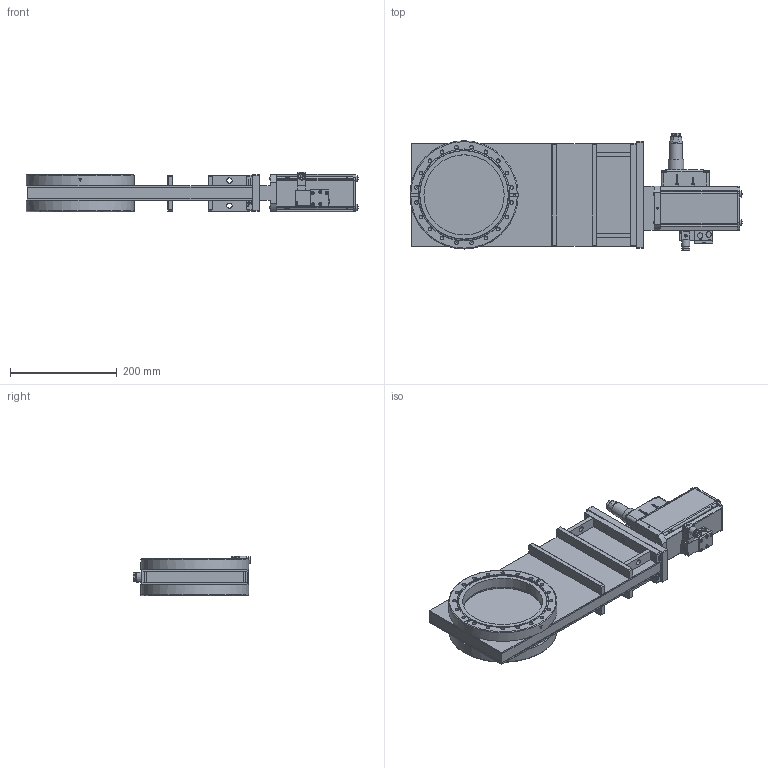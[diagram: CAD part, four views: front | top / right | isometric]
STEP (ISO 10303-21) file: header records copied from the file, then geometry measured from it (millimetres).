
FILE_DESCRIPTION(/* description */ (''),/* implementation_level */ '2;1');
FILE_NAME(/* name */ '1049421793_203.stp',/* time_stamp */ '2016-09-16T09:02:49+02:00',/* author */ (''),/* organization */ (''),/* preprocessor_version */ 'ST-DEVELOPER v15',/* originating_system */ 'SIEMENS PLM Software NX 9.0',/* authorisation */ '');
FILE_SCHEMA (('AP203_CONFIGURATION_CONTROLLED_3D_DESIGN_OF_MECHANICAL_PARTS_AND_ASSEMBLIES_MIM_LF { 1 0 10303 403 2 1 2}'));
Products named in the file (57): 500156; 800510; 387037; 800510_25066ID; 467882; 437235; 804858_25100ID; 804850_24339ID; 804857_25108ID; 804857_25111ID; 804844_25096ID; 804853_25110ID; 804858_25106ID; 804844_25109ID; 804857_25105ID; 804858_25101ID; 804853_24341ID; 804845_25107ID; 804845_25104ID; 804857_25098ID; 804858_25102ID; 70986-01.1; N-6240-008.1; N-6195-007.2; 71055-01.1; n-6011-049.1; 70973-01.1; N-7557-016_1.1; N-7557-018.1; N-7557-016_2.1; N-6024-524.1; N-5018-005.1; n-6099-492.1; 20846-01.1; 20846-01.1_24343ID; 70987-01.1; n-6024-548.1; 70988-01.1; n-8504-002; N-6024-571.1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
Assembly tree (90 placements, depth 5):
  511598
    93160-01.1
    72872-01.1
    69129.1
    94236-r1.3
      73004-01.1  x4
      94223-01.1
      85948-01.1
      N-6024-571.1  x4
    81045-r1.2_MODEL
      n-8504-002
      387035_MODEL
        70973-01.1
        n-6011-049.1  x2
        387036_MODELNX-ARRAGMNTMikroschalter neue Höhe
          800510_25066ID
          387037
          800510
          500156
      70988-01.1  x2
      n-6024-548.1  x4
      70987-01.1
      73638-r1.1
        71055-01.1  x4
        N-6195-007.2  x4
        N-6240-008.1  x2
        70986-01.1
    218198.1  x10
    22940-r1.1_MODEL
      804898_MODEL
        804858_25102ID
        804857_25098ID
        804845_25104ID
        804845_25107ID
        804853_24341ID
        804858_25101ID
        804857_25105ID
        804844_25109ID
        804858_25106ID
        804853_25110ID
        804844_25096ID
        804857_25111ID
        804857_25108ID
        804850_24339ID
        804858_25100ID
      20846-01.1_24343ID
      20846-01.1
      n-6099-492.1  x2
    94800-r1.7_NX-ARRAGMNTKONFIG1
      N-5018-005.1  x2
      N-6024-524.1  x6
      N-7557-016_2.1
      N-7557-018.1
      N-7557-016_1.1
      N-7557-016_3.1_MODELNX-ARRAGMNTArrangement 1
        437235
        467882
Bounding box: 621.52 x 219.9 x 74.26 mm (x, y, z)
Volume: 3224068.5 mm3; surface area: 1232368.2 mm2
Topology: 120 solids, 120 shells, 3842 faces, 9934 edges, 6619 vertices
Faces by surface type: plane 2485, cylinder 853, cone 189, torus 100, bspline 96, extrusion 91, sphere 28
Full cylindrical faces by diameter (mm): 0.5 x1, 1 x7, 1.1 x14, 1.5 x11, 1.6 x14, 1.66 x7, 1.97 x4, 2 x30, 2.125 x1, 2.265 x2, 2.46 x2, 2.5 x25, 2.65 x1, 3 x14, 3.2 x2, 3.3 x4, 3.4 x6, 3.5 x4, 3.8 x2, 4 x6, 4.2 x4, 4.22 x1, 4.4 x4, 4.45 x4, 4.625 x2, 4.75 x8, 5 x5, 5.5 x1, 5.9 x1, 6 x22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
Entity records: 122388 total; most frequent: CARTESIAN_POINT 32698, ORIENTED_EDGE 15306, DIRECTION 14254, EDGE_CURVE 7653, VERTEX_POINT 5466, AXIS2_PLACEMENT_3D 4891, VECTOR 4472, LINE 4381
